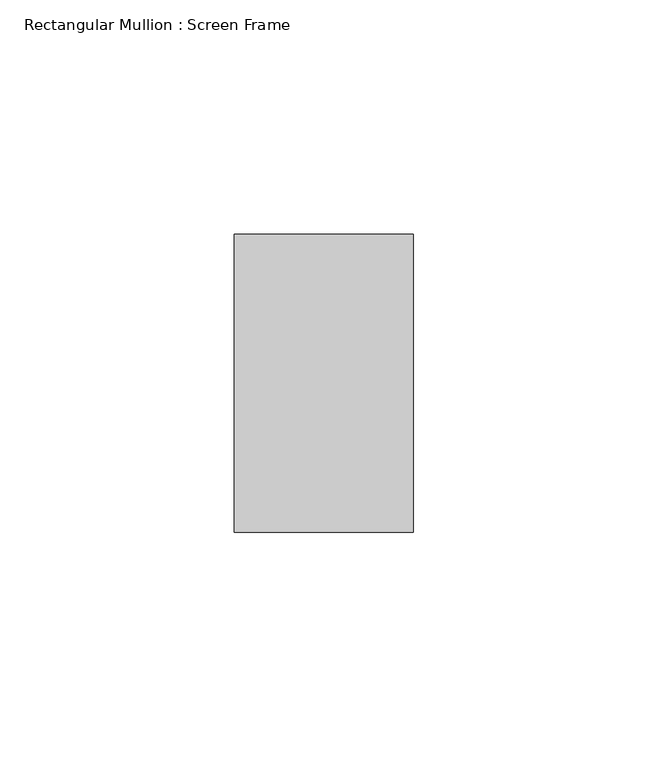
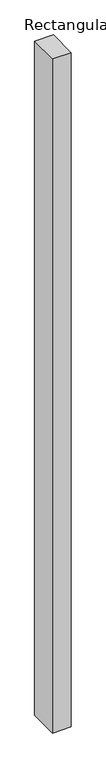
"""IFC4 building model written with IfcOpenShell, lengths in millimetres: member geometry, Rectangular Mullion : Screen Frame."""

from ifc_helpers import new_model, si_unit, frame, origin, place, context, project, spatial, polyline, outline, extrude, source, transform, mapped, element, save


def rectangular_mullion_screen_frame_8d831df1(model_context):
    return source(origin(), model_context, "Body", "SweptSolid", [
        extrude(outline(polyline([(0.0, 31.75), (0.0, -31.75), (-38.1, -31.75), (-38.1, 31.75), (0.0, 31.75)])), frame((0.0, 0.0, -1460.5), z_axis=(0.0, 0.0, 1.0), x_axis=(1.0, 0.0, 0.0)), (0.0, 0.0, 1.0), 1460.5),
    ])


if __name__ == "__main__":
    model = new_model("IFC4")
    model_context = context("Model", 3, world=origin())
    ifc_project = project(units=[si_unit("LENGTHUNIT", "METRE", prefix="MILLI")], contexts=[model_context])
    site = spatial("IfcSite", under=ifc_project)
    building = spatial("IfcBuilding", under=site)
    placement = place(None, origin())
    rectangular_mullion_screen_frame_shape = rectangular_mullion_screen_frame_8d831df1(model_context)
    element("IfcMember", 1, ObjectType="Rectangular Mullion : Screen Frame", at=placement, inside=building, context=model_context, shape_type="MappedRepresentation", body=[
        mapped(rectangular_mullion_screen_frame_shape, transform((0.0, 0.0, 0.0), x_axis=(1.0, 0.0, 0.0), y_axis=(0.0, 1.0, 0.0), z_axis=(0.0, 0.0, 1.0))),
    ])
    save(model, "model.ifc")
